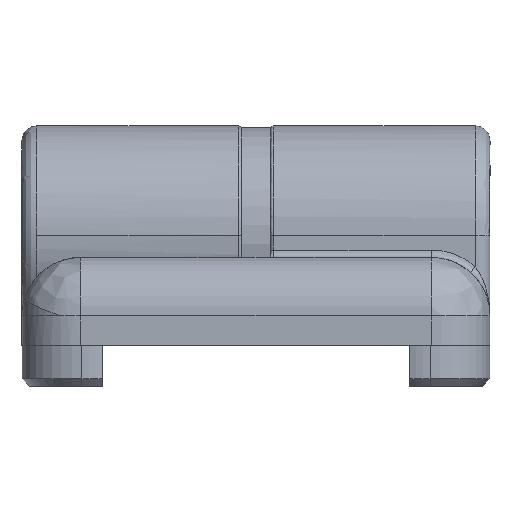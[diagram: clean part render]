
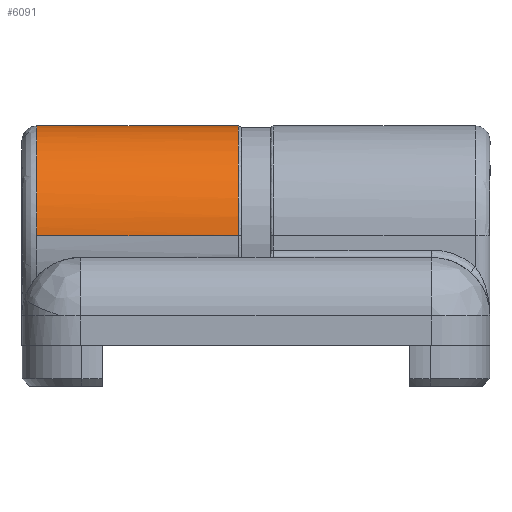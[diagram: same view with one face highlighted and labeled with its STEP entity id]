
A CAD part, left-side view. The second image highlights one B-rep face of the part: STEP entity #6091.
In plain terms, the highlighted cylindrical face has radius 7.5 mm (diameter 15 mm), a partial arc.
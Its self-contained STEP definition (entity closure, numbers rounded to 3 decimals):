
#9 = EDGE_CURVE ( 'NONE', #4910, #2320, #696, .T. ) ;
#143 = CARTESIAN_POINT ( 'NONE',  ( -6.553, 11.277, 14. ) ) ;
#168 = CARTESIAN_POINT ( 'NONE',  ( 7.5, 8.482, 14. ) ) ;
#644 = CARTESIAN_POINT ( 'NONE',  ( -4.609, 13.498, 14. ) ) ;
#696 = LINE ( 'NONE', #2096, #5753 ) ;
#1074 = ORIENTED_EDGE ( 'NONE', *, *, #9, .F. ) ;
#1111 = CARTESIAN_POINT ( 'NONE',  ( -1.963, 14.805, 14. ) ) ;
#1222 = ORIENTED_EDGE ( 'NONE', *, *, #4289, .T. ) ;
#1572 = CARTESIAN_POINT ( 'NONE',  ( 0.982, 15., 14. ) ) ;
#1601 = CARTESIAN_POINT ( 'NONE',  ( 7.5, 7.5, 0.2 ) ) ;
#1660 = DIRECTION ( 'NONE',  ( 0., 0., 1. ) ) ;
#1728 = CARTESIAN_POINT ( 'NONE',  ( -7.5, 7.5, 14. ) ) ;
#2072 = CARTESIAN_POINT ( 'NONE',  ( 3.777, 14.053, 14. ) ) ;
#2096 = CARTESIAN_POINT ( 'NONE',  ( 7.5, 7.5, 15. ) ) ;
#2234 = CARTESIAN_POINT ( 'NONE',  ( 0., 7.5, 15. ) ) ;
#2320 = VERTEX_POINT ( 'NONE', #4816 ) ;
#2418 = VERTEX_POINT ( 'NONE', #1728 ) ;
#2532 = CARTESIAN_POINT ( 'NONE',  ( -7.5, 7.5, 14. ) ) ;
#2576 = CARTESIAN_POINT ( 'NONE',  ( 5.998, 12.109, 14. ) ) ;
#2613 = ORIENTED_EDGE ( 'NONE', *, *, #5647, .T. ) ;
#2778 = CARTESIAN_POINT ( 'NONE',  ( -7.5, 7.5, 15. ) ) ;
#2887 = ORIENTED_EDGE ( 'NONE', *, *, #5302, .T. ) ;
#3043 = CARTESIAN_POINT ( 'NONE',  ( -7.305, 9.463, 14. ) ) ;
#3058 = CARTESIAN_POINT ( 'NONE',  ( 7.305, 9.463, 14. ) ) ;
#3528 = CARTESIAN_POINT ( 'NONE',  ( -7.5, 8.482, 14. ) ) ;
#3552 = CARTESIAN_POINT ( 'NONE',  ( -5.997, 12.109, 14. ) ) ;
#3572 = CARTESIAN_POINT ( 'NONE',  ( 7.5, 7.5, 14. ) ) ;
#3688 = DIRECTION ( 'NONE',  ( 1., 0., 0. ) ) ;
#3785 = DIRECTION ( 'NONE',  ( 0., 0., 1. ) ) ;
#3903 = EDGE_LOOP ( 'NONE', ( #1074, #1222, #2613, #2887 ) ) ;
#4070 = CARTESIAN_POINT ( 'NONE',  ( -3.777, 14.053, 14. ) ) ;
#4289 = EDGE_CURVE ( 'NONE', #4910, #4391, #4686, .T. ) ;
#4348 = DIRECTION ( 'NONE',  ( 0., 0., 1. ) ) ;
#4391 = VERTEX_POINT ( 'NONE', #5172 ) ;
#4531 = B_SPLINE_CURVE_WITH_KNOTS ( 'NONE', 3,
 ( #2532, #3528, #3043, #143, #3552, #644, #4070, #1111, #4546, #1572, #5059, #2072, #5551, #2576, #6047, #3058, #168, #3572 ),
 .UNSPECIFIED., .F., .F.,
 ( 4, 2, 2, 2, 2, 2, 2, 2, 4 ),
 ( 0., 0.083, 0.167, 0.25, 0.333, 0.417, 0.5, 0.583, 0.667 ),
 .UNSPECIFIED. ) ;
#4546 = CARTESIAN_POINT ( 'NONE',  ( -0.982, 15., 14. ) ) ;
#4635 = CARTESIAN_POINT ( 'NONE',  ( 0., 7.5, 0.2 ) ) ;
#4686 = CIRCLE ( 'NONE', #5717, 7.5 ) ;
#4816 = CARTESIAN_POINT ( 'NONE',  ( 7.5, 7.5, 14. ) ) ;
#4910 = VERTEX_POINT ( 'NONE', #1601 ) ;
#5059 = CARTESIAN_POINT ( 'NONE',  ( 1.963, 14.805, 14. ) ) ;
#5064 = CYLINDRICAL_SURFACE ( 'NONE', #5377, 7.5 ) ;
#5123 = DIRECTION ( 'NONE',  ( 1., 0., 0. ) ) ;
#5172 = CARTESIAN_POINT ( 'NONE',  ( -7.5, 7.5, 0.2 ) ) ;
#5302 = EDGE_CURVE ( 'NONE', #2418, #2320, #4531, .T. ) ;
#5369 = FACE_OUTER_BOUND ( 'NONE', #3903, .T. ) ;
#5377 = AXIS2_PLACEMENT_3D ( 'NONE', #2234, #5720, #3688 ) ;
#5551 = CARTESIAN_POINT ( 'NONE',  ( 4.609, 13.497, 14. ) ) ;
#5595 = LINE ( 'NONE', #2778, #5975 ) ;
#5647 = EDGE_CURVE ( 'NONE', #4391, #2418, #5595, .T. ) ;
#5717 = AXIS2_PLACEMENT_3D ( 'NONE', #4635, #1660, #5123 ) ;
#5720 = DIRECTION ( 'NONE',  ( 0., 0., 1. ) ) ;
#5753 = VECTOR ( 'NONE', #4348, 1000. ) ;
#5975 = VECTOR ( 'NONE', #3785, 1000. ) ;
#6047 = CARTESIAN_POINT ( 'NONE',  ( 6.553, 11.277, 14. ) ) ;
#6091 = ADVANCED_FACE ( 'NONE', ( #5369 ), #5064, .T. ) ;
